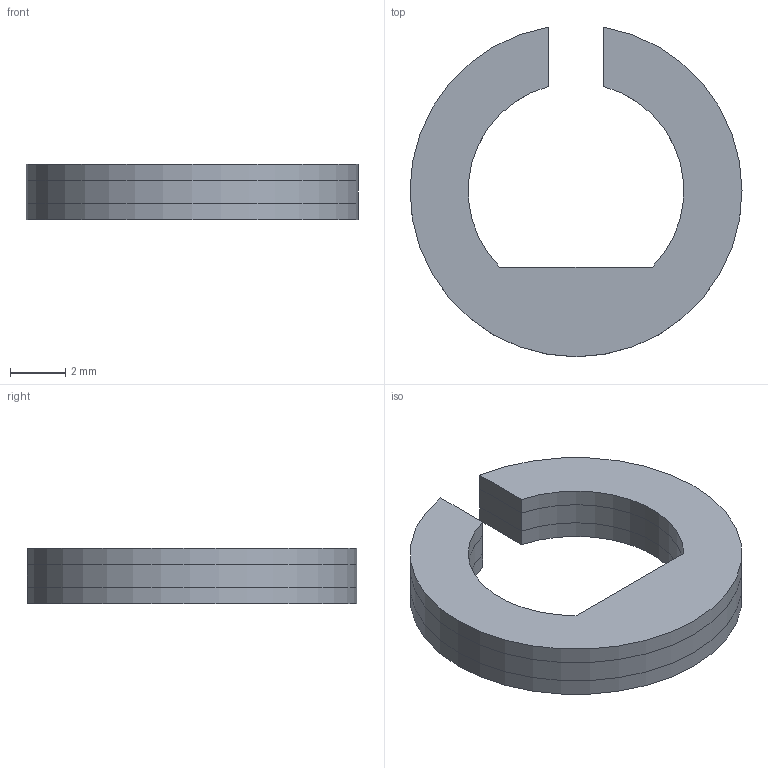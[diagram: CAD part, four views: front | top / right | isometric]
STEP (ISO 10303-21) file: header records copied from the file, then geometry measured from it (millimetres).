
FILE_DESCRIPTION (( 'STEP AP214' ), '1' );
FILE_NAME ('Clip_v3.2.STEP', '2019-04-10T20:51:48', ( '' ), ( '' ), 'SwSTEP 2.0', 'SolidWorks 2018', '' );
FILE_SCHEMA (( 'AUTOMOTIVE_DESIGN' ));
Length unit declared in the file: millimetre
Products named in the file (1): Clip_v3.2
Bounding box: 12 x 11.92 x 2 mm (x, y, z)
Volume: 130.8 mm3; surface area: 509.8 mm2
Topology: 2 solids, 2 shells, 36 faces, 90 edges, 60 vertices
Faces by surface type: plane 21, cylinder 15
Entity records: 1131 total; most frequent: DIRECTION 194, CARTESIAN_POINT 187, ORIENTED_EDGE 180, EDGE_CURVE 90, AXIS2_PLACEMENT_3D 67, VERTEX_POINT 60, LINE 60, VECTOR 60
